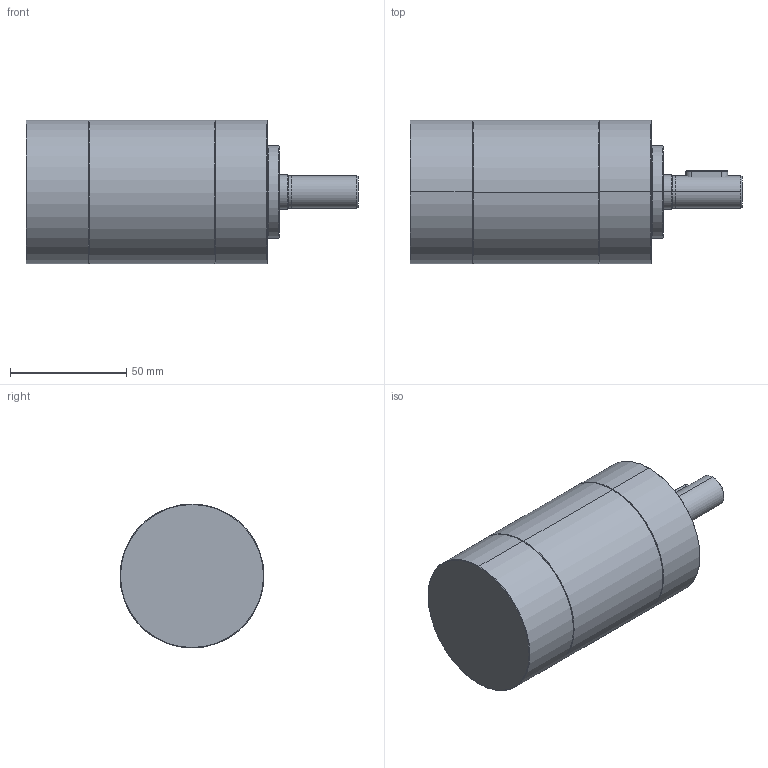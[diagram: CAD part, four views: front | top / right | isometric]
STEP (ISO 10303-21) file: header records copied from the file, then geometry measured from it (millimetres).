
FILE_DESCRIPTION (( 'STEP AP203' ), '1' );
FILE_NAME ('PI62-3.STEP', '2013-11-27T15:39:44', ( '' ), ( '' ), 'SwSTEP 2.0', 'SolidWorks 2012', '' );
FILE_SCHEMA (( 'CONFIG_CONTROL_DESIGN' ));
Length unit declared in the file: millimetre
Products named in the file (2): PI62-3; Group1^Baugruppe65_01
Assembly tree (1 placements, depth 2):
  PI62-3
    Group1^Baugruppe65_01
Bounding box: 143 x 62 x 62 mm (x, y, z)
Volume: 336437.9 mm3; surface area: 43261.6 mm2
Topology: 9 solids, 9 shells, 910 faces, 2296 edges, 1419 vertices
Faces by surface type: cone 524, cylinder 318, plane 44, torus 24
Entity records: 27816 total; most frequent: DIRECTION 5540, CARTESIAN_POINT 4619, ORIENTED_EDGE 4572, AXIS2_PLACEMENT_3D 2340, EDGE_CURVE 2286, CIRCLE 1426, VERTEX_POINT 1419, EDGE_LOOP 935
